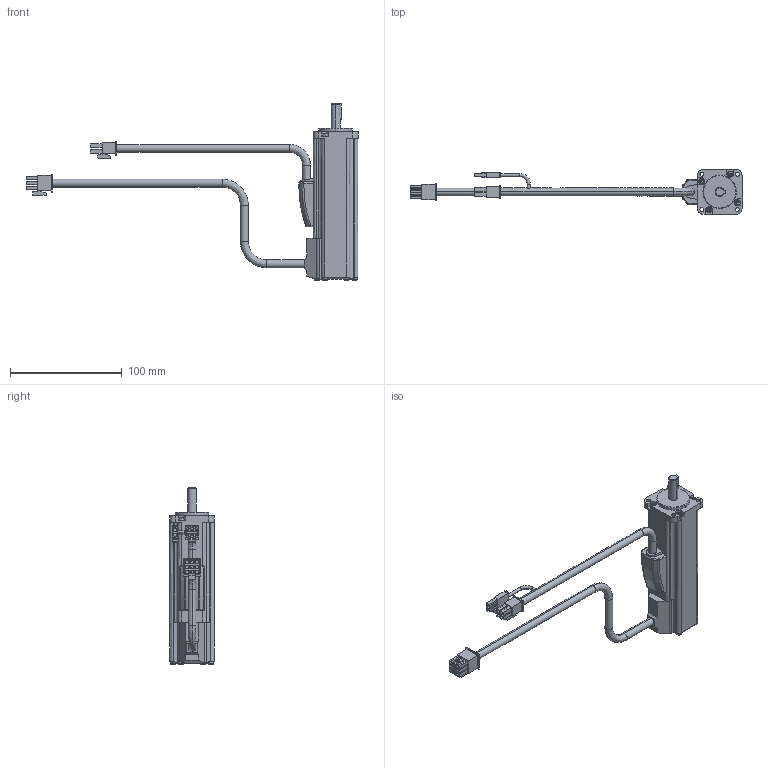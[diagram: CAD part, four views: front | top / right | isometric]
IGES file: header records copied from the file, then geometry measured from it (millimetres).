
Start section:  PTC IGES file: 10001043_rsmz-a8bq-bh_brake.igs
Global section: file name: 10001043_rsmz-a8bq-bh_brake.igs; native system: Pro/ENGINEER by Parametric Technology Corporation; preprocessor: 2004440; author: Administrator; organization: Unknown; date: 070829.201825; units: millimetre
Bounding box: 297.7 x 40 x 158.1 mm (x, y, z)
Volume: 223304.8 mm3; surface area: 42757.3 mm2
Topology: 1 solids, 1 shells, 505 faces, 1272 edges, 824 vertices
Faces by surface type: bspline 365, revolution 140
